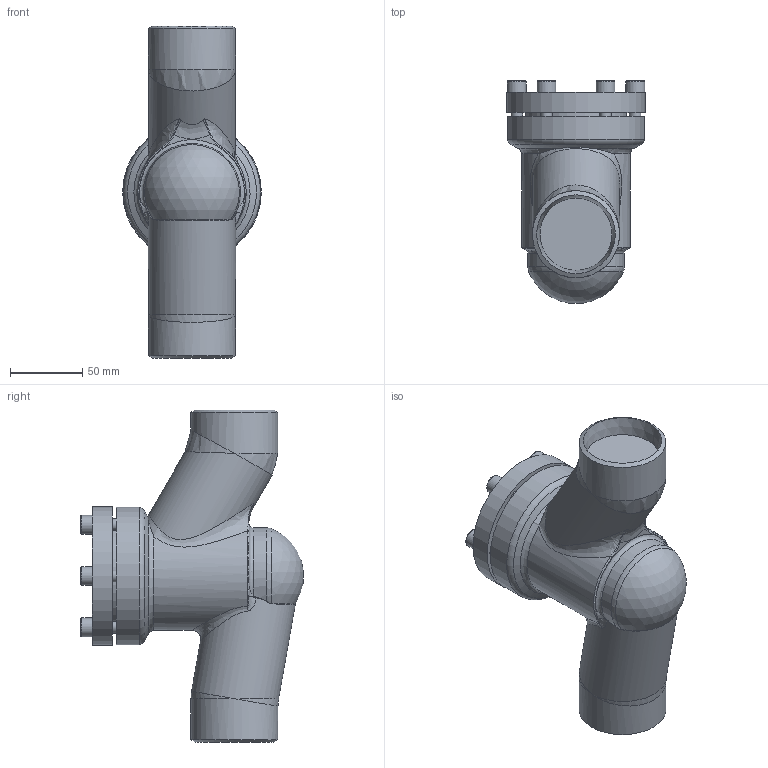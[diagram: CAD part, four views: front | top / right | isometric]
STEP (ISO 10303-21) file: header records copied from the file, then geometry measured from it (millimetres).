
FILE_DESCRIPTION((''),'2;1');
FILE_NAME('C:\Users\Lempe.Ha\Desktop\SS D AE 52G00-050 PS25.stp','2013-07-12T11:48:49',('Lempe.Ha'),(''),'Autodesk Inventor 2012','Autodesk Inventor 2012','');
FILE_SCHEMA(('AUTOMOTIVE_DESIGN { 1 0 10303 214 1 1 1 1 }'));
Length unit declared in the file: millimetre
Products named in the file (4): RV D AE 28G00-050 PS25; 16G00E15; 28300E15; DIN 912 - ersetzt durch DIN EN ISO 4762 M8 x 25
Assembly tree (8 placements, depth 2):
  RV D AE 28G00-050 PS25
    16G00E15
    28300E15
    DIN 912 - ersetzt durch DIN EN ISO 4762 M8 x 25  x6
Bounding box: 96 x 154.16 x 230 mm (x, y, z)
Volume: 914173.3 mm3; surface area: 139676.3 mm2
Topology: 8 solids, 8 shells, 195 faces, 444 edges, 268 vertices
Faces by surface type: plane 68, cylinder 42, bspline 31, cone 30, torus 21, sphere 3
Full cylindrical faces by diameter (mm): 6.647 x6, 8 x6, 9 x6, 13 x6, 51 x1, 55 x1, 56 x1, 60 x1, 60.3 x4, 62 x3, 65 x1, 70 x2, 95 x1, 96 x1
Entity records: 4388 total; most frequent: CARTESIAN_POINT 1969, DIRECTION 456, ORIENTED_EDGE 398, AXIS2_PLACEMENT_3D 221, EDGE_CURVE 199, EDGE_LOOP 196, VERTEX_POINT 149, FACE_OUTER_BOUND 120
